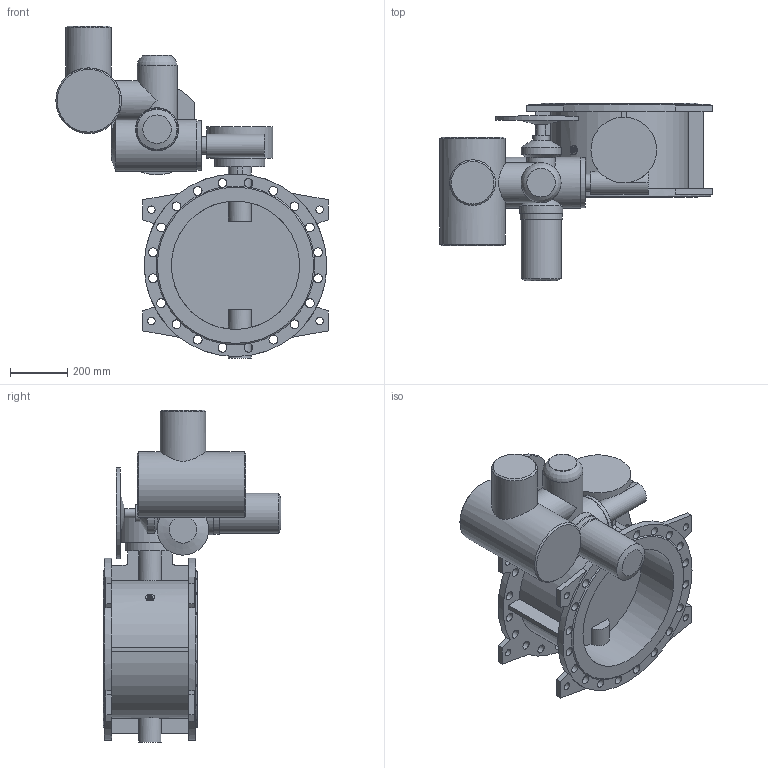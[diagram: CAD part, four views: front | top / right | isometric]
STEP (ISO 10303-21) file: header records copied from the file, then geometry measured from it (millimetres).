
FILE_DESCRIPTION(('STEP AP203'), '1');
FILE_NAME('Çàòâîð 023F.Z DN450 PN16 + ðåäóêòîð + ÌÒ903.À30 ñ ÁÓ', '', ('UNSPECIFIED'), ('UNSPECIFIED'), 'ASCON STEP Converter 1.6', 'ASCON Math Kernel', '');
FILE_SCHEMA(('CONFIG_CONTROL_DESIGN'));
Length unit declared in the file: millimetre
Bounding box: 955 x 624 x 1164 mm (x, y, z)
Volume: 68550494.3 mm3; surface area: 3452671.5 mm2
Topology: 1 solids, 1 shells, 230 faces, 686 edges, 452 vertices
Faces by surface type: cylinder 108, plane 108, cone 13, torus 1
Full cylindrical faces by diameter (mm): 14 x8, 18 x8, 26 x8, 31 x40, 32 x1, 60 x2, 80 x2, 100 x1, 140 x4, 147 x1, 151 x1, 160 x1, 175 x2, 180 x1, 230 x2, 450 x2, 640 x2
Entity records: 13810 total; most frequent: CARTESIAN_POINT 5854, DIRECTION 1275, ORIENTED_EDGE 1168, EDGE_CURVE 584, AXIS2_PLACEMENT_3D 542, VERTEX_POINT 451, EDGE_LOOP 419, CIRCLE 312
